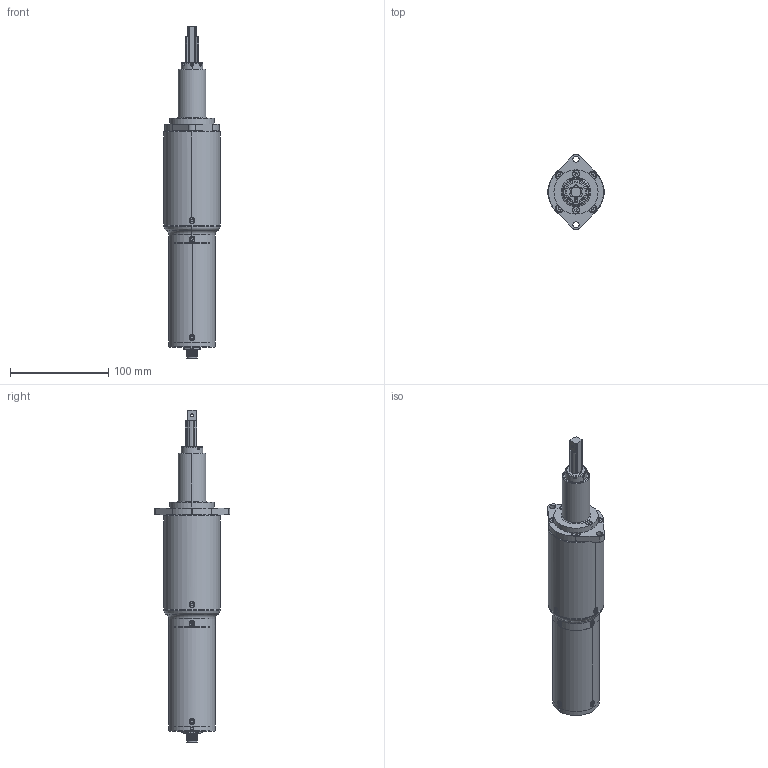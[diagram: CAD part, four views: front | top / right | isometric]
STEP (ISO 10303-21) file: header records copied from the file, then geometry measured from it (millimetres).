
FILE_DESCRIPTION (( 'STEP AP214' ), '1' );
FILE_NAME ('pluto 35-FN.STEP', '2014-03-31T13:45:01', ( 'davide' ), ( '' ), 'SwSTEP 2.0', 'SolidWorks 2013', '' );
FILE_SCHEMA (( 'AUTOMOTIVE_DESIGN' ));
Length unit declared in the file: millimetre
Products named in the file (1): pluto 35-FN
Bounding box: 57 x 77 x 337.85 mm (x, y, z)
Volume: 195992.9 mm3; surface area: 130989.8 mm2
Topology: 32 solids, 32 shells, 1165 faces, 2882 edges, 1753 vertices
Faces by surface type: cylinder 593, plane 273, cone 128, bspline 85, torus 78, sphere 8
Entity records: 61995 total; most frequent: CARTESIAN_POINT 21616, DIRECTION 5854, ORIENTED_EDGE 5636, EDGE_CURVE 2818, AXIS2_PLACEMENT_3D 2389, VERTEX_POINT 1751, EDGE_LOOP 1311, CIRCLE 1308
